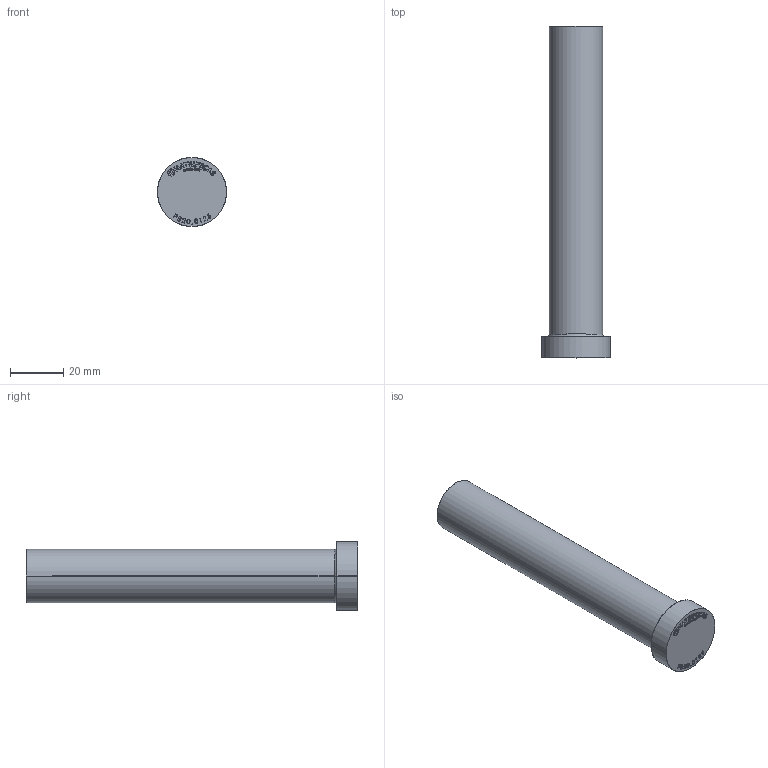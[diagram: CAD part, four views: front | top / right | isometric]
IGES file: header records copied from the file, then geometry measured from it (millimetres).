
Start section: SolidWorks IGES file using analytic representation for surfaces
Global section: file name: C:\Users\User\Downloads\Matripeça 31-08 tar\PB - PINO EXTRATOR TIPO _B_ (CATÁLOGO)\PB20,0\PB20,0125.IGS; native system: SolidWorks 2024; preprocessor: SolidWorks 2024; author: User; date: 260901.155418; units: millimetre
Bounding box: 26 x 125 x 26 mm (x, y, z)
Surface area: 9060.6 mm2 (no closed solid volume)
Topology: 0 solids, 0 shells, 400 faces, 4311 edges, 4311 vertices
Faces by surface type: bspline 386, revolution 14
